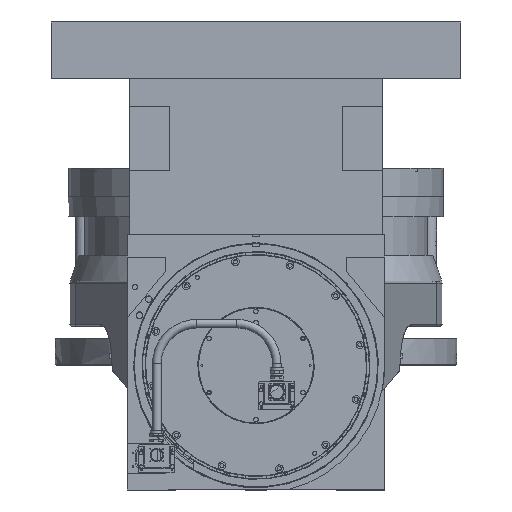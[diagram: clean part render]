
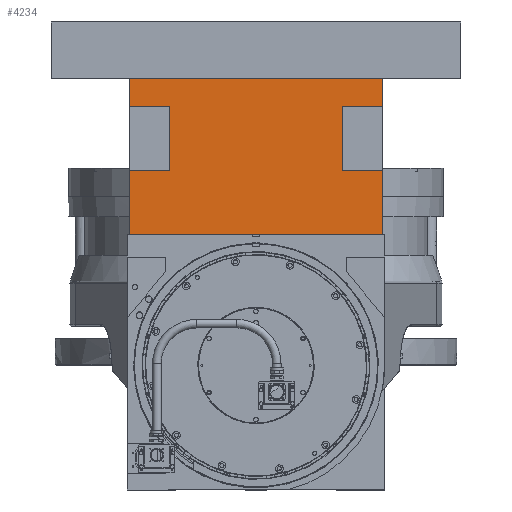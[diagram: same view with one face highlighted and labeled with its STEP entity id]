
A CAD part, left-side view. The second image highlights one B-rep face of the part: STEP entity #4234.
In plain terms, the highlighted planar face has unit normal (-1, 0, 0).
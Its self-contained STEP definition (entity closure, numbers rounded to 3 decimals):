
#1196 = ORIENTED_EDGE ( 'NONE', *, *, #25482, .T. ) ;
#1548 = CARTESIAN_POINT ( 'NONE',  ( -1186.5, -315., 715. ) ) ;
#1772 = CARTESIAN_POINT ( 'NONE',  ( -1186.5, 215., 645. ) ) ;
#1825 = EDGE_CURVE ( 'NONE', #20612, #9763, #24543, .T. ) ;
#2037 = DIRECTION ( 'NONE',  ( 0., 0., -1. ) ) ;
#2646 = CARTESIAN_POINT ( 'NONE',  ( -1186.5, -215., 645. ) ) ;
#2701 = VECTOR ( 'NONE', #25372, 1000. ) ;
#3464 = CARTESIAN_POINT ( 'NONE',  ( -1186.5, -315., 715. ) ) ;
#3774 = LINE ( 'NONE', #8325, #30551 ) ;
#4234 = ADVANCED_FACE ( 'NONE', ( #27558 ), #33132, .F. ) ;
#4482 = LINE ( 'NONE', #9712, #24320 ) ;
#4987 = ORIENTED_EDGE ( 'NONE', *, *, #14387, .F. ) ;
#5040 = EDGE_CURVE ( 'NONE', #24276, #29262, #30725, .T. ) ;
#5691 = LINE ( 'NONE', #16332, #19801 ) ;
#6419 = CARTESIAN_POINT ( 'NONE',  ( -1186.5, -315., 715. ) ) ;
#6692 = LINE ( 'NONE', #22925, #2701 ) ;
#7545 = VECTOR ( 'NONE', #15289, 1000. ) ;
#7581 = CARTESIAN_POINT ( 'NONE',  ( -1186.5, -315., 715. ) ) ;
#8325 = CARTESIAN_POINT ( 'NONE',  ( -1186.5, 315., 715. ) ) ;
#8428 = VECTOR ( 'NONE', #22107, 1000. ) ;
#9712 = CARTESIAN_POINT ( 'NONE',  ( -1186.5, 315., 485. ) ) ;
#9763 = VERTEX_POINT ( 'NONE', #11819 ) ;
#10069 = CARTESIAN_POINT ( 'NONE',  ( -1186.5, -215., 485. ) ) ;
#10498 = VECTOR ( 'NONE', #2037, 1000. ) ;
#10549 = VERTEX_POINT ( 'NONE', #31538 ) ;
#10723 = EDGE_CURVE ( 'NONE', #13074, #19413, #5691, .T. ) ;
#10770 = ORIENTED_EDGE ( 'NONE', *, *, #10723, .T. ) ;
#10858 = DIRECTION ( 'NONE',  ( 0., 0., 1. ) ) ;
#11122 = VECTOR ( 'NONE', #22675, 1000. ) ;
#11273 = CARTESIAN_POINT ( 'NONE',  ( -1186.5, -315., 325. ) ) ;
#11819 = CARTESIAN_POINT ( 'NONE',  ( -1186.5, 315., 325. ) ) ;
#12168 = DIRECTION ( 'NONE',  ( 0., -1., 0. ) ) ;
#12205 = EDGE_LOOP ( 'NONE', ( #4987, #33703, #21351, #31431, #10770, #34131, #21689, #25777, #1196, #17913, #29523, #21373 ) ) ;
#12269 = AXIS2_PLACEMENT_3D ( 'NONE', #1548, #22655, #12168 ) ;
#12944 = LINE ( 'NONE', #23608, #23450 ) ;
#13074 = VERTEX_POINT ( 'NONE', #13733 ) ;
#13733 = CARTESIAN_POINT ( 'NONE',  ( -1186.5, -315., 485. ) ) ;
#14092 = DIRECTION ( 'NONE',  ( 0., 0., -1. ) ) ;
#14387 = EDGE_CURVE ( 'NONE', #19389, #21878, #4482, .T. ) ;
#14613 = DIRECTION ( 'NONE',  ( 0., 1., 0. ) ) ;
#15289 = DIRECTION ( 'NONE',  ( 0., 0., 1. ) ) ;
#15637 = CARTESIAN_POINT ( 'NONE',  ( -1186.5, 215., 485. ) ) ;
#15807 = CARTESIAN_POINT ( 'NONE',  ( -1186.5, -315., 325. ) ) ;
#16332 = CARTESIAN_POINT ( 'NONE',  ( -1186.5, -315., 485. ) ) ;
#16668 = EDGE_CURVE ( 'NONE', #19389, #9763, #29093, .T. ) ;
#16685 = DIRECTION ( 'NONE',  ( 0., 0., -1. ) ) ;
#16889 = LINE ( 'NONE', #6419, #29303 ) ;
#17665 = VECTOR ( 'NONE', #14092, 1000. ) ;
#17778 = VERTEX_POINT ( 'NONE', #19643 ) ;
#17913 = ORIENTED_EDGE ( 'NONE', *, *, #28266, .T. ) ;
#19389 = VERTEX_POINT ( 'NONE', #28424 ) ;
#19413 = VERTEX_POINT ( 'NONE', #10069 ) ;
#19643 = CARTESIAN_POINT ( 'NONE',  ( -1186.5, 315., 715. ) ) ;
#19801 = VECTOR ( 'NONE', #32056, 1000. ) ;
#20352 = DIRECTION ( 'NONE',  ( 0., -1., 0. ) ) ;
#20612 = VERTEX_POINT ( 'NONE', #15807 ) ;
#20875 = EDGE_CURVE ( 'NONE', #28611, #10549, #21762, .T. ) ;
#21351 = ORIENTED_EDGE ( 'NONE', *, *, #1825, .F. ) ;
#21373 = ORIENTED_EDGE ( 'NONE', *, *, #25764, .F. ) ;
#21689 = ORIENTED_EDGE ( 'NONE', *, *, #28740, .F. ) ;
#21762 = LINE ( 'NONE', #32427, #8428 ) ;
#21878 = VERTEX_POINT ( 'NONE', #23688 ) ;
#22107 = DIRECTION ( 'NONE',  ( 0., 0., -1. ) ) ;
#22655 = DIRECTION ( 'NONE',  ( 1., 0., 0. ) ) ;
#22675 = DIRECTION ( 'NONE',  ( 0., -1., 0. ) ) ;
#22925 = CARTESIAN_POINT ( 'NONE',  ( -1186.5, -315., 645. ) ) ;
#23166 = LINE ( 'NONE', #15637, #7545 ) ;
#23332 = CARTESIAN_POINT ( 'NONE',  ( -1186.5, 315., 645. ) ) ;
#23450 = VECTOR ( 'NONE', #10858, 1000. ) ;
#23608 = CARTESIAN_POINT ( 'NONE',  ( -1186.5, -215., 485. ) ) ;
#23688 = CARTESIAN_POINT ( 'NONE',  ( -1186.5, 215., 485. ) ) ;
#23839 = CARTESIAN_POINT ( 'NONE',  ( -1186.5, 315., 715. ) ) ;
#24276 = VERTEX_POINT ( 'NONE', #23332 ) ;
#24320 = VECTOR ( 'NONE', #20352, 1000. ) ;
#24543 = LINE ( 'NONE', #11273, #27208 ) ;
#25372 = DIRECTION ( 'NONE',  ( 0., 1., 0. ) ) ;
#25482 = EDGE_CURVE ( 'NONE', #28611, #17778, #16889, .T. ) ;
#25645 = CARTESIAN_POINT ( 'NONE',  ( -1186.5, 315., 645. ) ) ;
#25764 = EDGE_CURVE ( 'NONE', #21878, #29262, #23166, .T. ) ;
#25777 = ORIENTED_EDGE ( 'NONE', *, *, #20875, .F. ) ;
#26440 = VERTEX_POINT ( 'NONE', #2646 ) ;
#27062 = EDGE_CURVE ( 'NONE', #13074, #20612, #30005, .T. ) ;
#27163 = DIRECTION ( 'NONE',  ( 0., 1., 0. ) ) ;
#27208 = VECTOR ( 'NONE', #27163, 1000. ) ;
#27558 = FACE_OUTER_BOUND ( 'NONE', #12205, .T. ) ;
#28266 = EDGE_CURVE ( 'NONE', #17778, #24276, #3774, .T. ) ;
#28424 = CARTESIAN_POINT ( 'NONE',  ( -1186.5, 315., 485. ) ) ;
#28611 = VERTEX_POINT ( 'NONE', #7581 ) ;
#28740 = EDGE_CURVE ( 'NONE', #10549, #26440, #6692, .T. ) ;
#29093 = LINE ( 'NONE', #23839, #10498 ) ;
#29262 = VERTEX_POINT ( 'NONE', #1772 ) ;
#29303 = VECTOR ( 'NONE', #14613, 1000. ) ;
#29523 = ORIENTED_EDGE ( 'NONE', *, *, #5040, .T. ) ;
#30005 = LINE ( 'NONE', #3464, #17665 ) ;
#30551 = VECTOR ( 'NONE', #16685, 1000. ) ;
#30725 = LINE ( 'NONE', #25645, #11122 ) ;
#31431 = ORIENTED_EDGE ( 'NONE', *, *, #27062, .F. ) ;
#31538 = CARTESIAN_POINT ( 'NONE',  ( -1186.5, -315., 645. ) ) ;
#32056 = DIRECTION ( 'NONE',  ( 0., 1., 0. ) ) ;
#32151 = EDGE_CURVE ( 'NONE', #19413, #26440, #12944, .T. ) ;
#32427 = CARTESIAN_POINT ( 'NONE',  ( -1186.5, -315., 715. ) ) ;
#33132 = PLANE ( 'NONE',  #12269 ) ;
#33703 = ORIENTED_EDGE ( 'NONE', *, *, #16668, .T. ) ;
#34131 = ORIENTED_EDGE ( 'NONE', *, *, #32151, .T. ) ;
